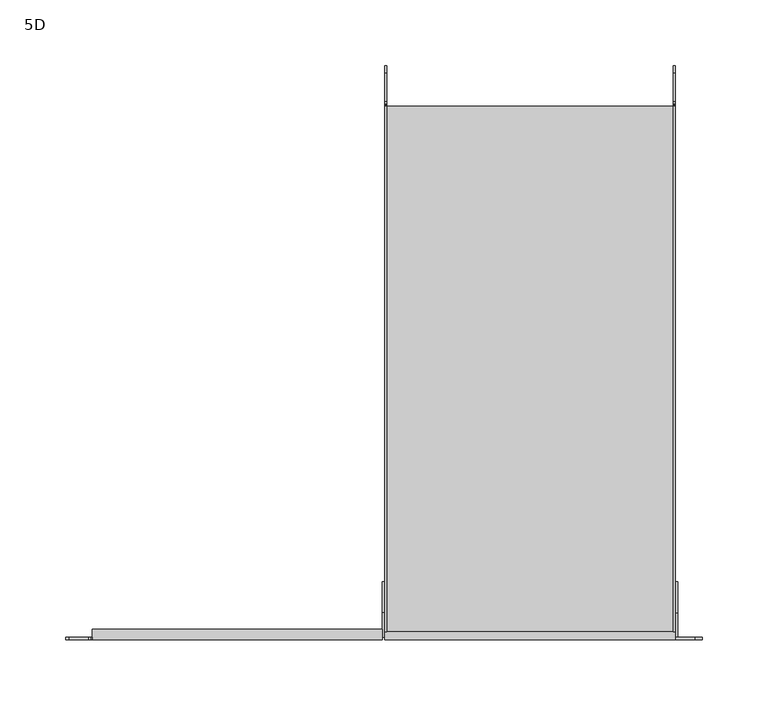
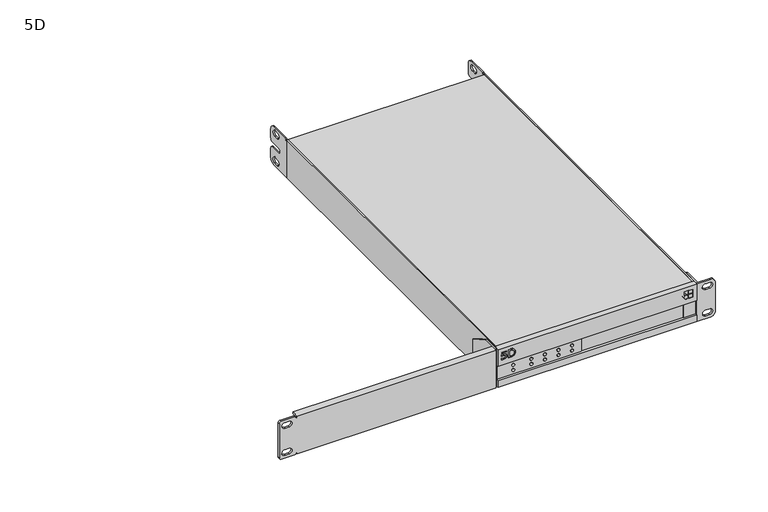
"""IFC4 building model written with IfcOpenShell, lengths in millimetres: proxy geometry, d&b 5D Amplifier : 5D."""

from ifc_helpers import new_model, si_unit, point, frame, frame_2d, origin, origin_with_axes, place, context, project, spatial, polyline, circle_curve, trimmed, segment, composite_curve, outline, extrude, source, transform, mapped, element, save
from ifc_brep_helpers import plane_surface, cylinder_surface, revolved_surface, advanced_brep


def proxy_5d_f9ce884a(model_context):
    return source(origin(), model_context, "Body", "SolidModel", [
        extrude(outline(composite_curve([segment(polyline([(185.5829535, 43.9406488), (207.5499232, 43.9406488)]), True, "CONTINUOUS"), segment(trimmed(circle_curve(frame_2d((207.5499232, 38.9406488)), 5.0), [point((207.5499232, 43.9406488))], [point((212.5499232, 38.9406488))], False, "CARTESIAN"), True, "CONTINUOUS"), segment(polyline([(212.5499232, 38.9406488), (212.5499232, 28.0)]), True, "CONTINUOUS"), segment(trimmed(circle_curve(frame_2d((209.5499232, 28.0)), 3.0), [point((212.5499232, 28.0))], [point((209.5499232, 25.0))], False, "CARTESIAN"), True, "CONTINUOUS"), segment(polyline([(209.5499232, 25.0), (197.5499232, 25.0)]), True, "CONTINUOUS"), segment(trimmed(circle_curve(frame_2d((197.5499232, 22.0)), 3.0), [point((197.5499232, 25.0))], [point((197.5499232, 19.0))], True, "CARTESIAN"), True, "CONTINUOUS"), segment(polyline([(197.5499232, 19.0), (209.5499232, 19.0)]), True, "CONTINUOUS"), segment(trimmed(circle_curve(frame_2d((209.5499232, 16.0)), 3.0), [point((209.5499232, 19.0))], [point((212.5499232, 16.0))], False, "CARTESIAN"), True, "CONTINUOUS"), segment(polyline([(212.5499232, 16.0), (212.5499232, 5.0)]), True, "CONTINUOUS"), segment(trimmed(circle_curve(frame_2d((207.5499232, 5.0)), 5.0), [point((212.5499232, 5.0))], [point((207.5499232, 0.0))], False, "CARTESIAN"), True, "CONTINUOUS"), segment(polyline([(207.5499232, 0.0), (182.0499232, 0.0), (182.0499232, 42.7406488), (183.1829535, 42.7406488)]), True, "CONTINUOUS"), segment(trimmed(circle_curve(frame_2d((183.1829535, 43.7406488)), 1.0), [point((183.1829535, 42.7406488))], [point((183.9829535, 43.1406488))], True, "CARTESIAN"), True, "CONTINUOUS"), segment(trimmed(circle_curve(frame_2d((185.5829535, 41.9406488)), 2.0), [point((183.9829535, 43.1406488))], [point((185.5829535, 43.9406488))], False, "CARTESIAN"), True, "CONTINUOUS")], self_intersect=False), holes=[composite_curve([segment(trimmed(circle_curve(frame_2d((204.7999232, 6.25)), 3.25), [point((204.7999232, 3.0))], [point((204.7999232, 9.5))], True, "CARTESIAN"), True, "CONTINUOUS"), segment(polyline([(204.7999232, 9.5), (200.2999232, 9.5)]), True, "CONTINUOUS"), segment(trimmed(circle_curve(frame_2d((200.2999232, 6.25)), 3.25), [point((200.2999232, 9.5))], [point((200.2999232, 3.0))], True, "CARTESIAN"), True, "CONTINUOUS"), segment(polyline([(200.2999232, 3.0), (204.7999232, 3.0)]), True, "CONTINUOUS")], self_intersect=False), composite_curve([segment(trimmed(circle_curve(frame_2d((200.2999232, 37.75)), 3.25), [point((200.2999232, 41.0))], [point((200.2999232, 34.5))], True, "CARTESIAN"), True, "CONTINUOUS"), segment(polyline([(200.2999232, 34.5), (204.7999232, 34.5)]), True, "CONTINUOUS"), segment(trimmed(circle_curve(frame_2d((204.7999232, 37.75)), 3.25), [point((204.7999232, 34.5))], [point((204.7999232, 41.0))], True, "CARTESIAN"), True, "CONTINUOUS"), segment(polyline([(204.7999232, 41.0), (200.2999232, 41.0)]), True, "CONTINUOUS")], self_intersect=False)]), frame((-2.883647, 0.0, 0.0), z_axis=(1.0, 0.0, 0.0), x_axis=(0.0, 1.0, 0.0)), (0.0, 0.0, 1.0), 1.5),
        extrude(outline(composite_curve([segment(polyline([(185.5829535, 43.9406488), (207.5499232, 43.9406488)]), True, "CONTINUOUS"), segment(trimmed(circle_curve(frame_2d((207.5499232, 38.9406488)), 5.0), [point((207.5499232, 43.9406488))], [point((212.5499232, 38.9406488))], False, "CARTESIAN"), True, "CONTINUOUS"), segment(polyline([(212.5499232, 38.9406488), (212.5499232, 28.0)]), True, "CONTINUOUS"), segment(trimmed(circle_curve(frame_2d((209.5499232, 28.0)), 3.0), [point((212.5499232, 28.0))], [point((209.5499232, 25.0))], False, "CARTESIAN"), True, "CONTINUOUS"), segment(polyline([(209.5499232, 25.0), (197.5499232, 25.0)]), True, "CONTINUOUS"), segment(trimmed(circle_curve(frame_2d((197.5499232, 22.0)), 3.0), [point((197.5499232, 25.0))], [point((197.5499232, 19.0))], True, "CARTESIAN"), True, "CONTINUOUS"), segment(polyline([(197.5499232, 19.0), (209.5499232, 19.0)]), True, "CONTINUOUS"), segment(trimmed(circle_curve(frame_2d((209.5499232, 16.0)), 3.0), [point((209.5499232, 19.0))], [point((212.5499232, 16.0))], False, "CARTESIAN"), True, "CONTINUOUS"), segment(polyline([(212.5499232, 16.0), (212.5499232, 5.0)]), True, "CONTINUOUS"), segment(trimmed(circle_curve(frame_2d((207.5499232, 5.0)), 5.0), [point((212.5499232, 5.0))], [point((207.5499232, 0.0))], False, "CARTESIAN"), True, "CONTINUOUS"), segment(polyline([(207.5499232, 0.0), (182.0499232, 0.0), (182.0499232, 42.7406488), (183.1829535, 42.7406488)]), True, "CONTINUOUS"), segment(trimmed(circle_curve(frame_2d((183.1829535, 43.7406488)), 1.0), [point((183.1829535, 42.7406488))], [point((183.9829535, 43.1406488))], True, "CARTESIAN"), True, "CONTINUOUS"), segment(trimmed(circle_curve(frame_2d((185.5829535, 41.9406488)), 2.0), [point((183.9829535, 43.1406488))], [point((185.5829535, 43.9406488))], False, "CARTESIAN"), True, "CONTINUOUS")], self_intersect=False), holes=[composite_curve([segment(trimmed(circle_curve(frame_2d((204.7999232, 6.25)), 3.25), [point((204.7999232, 3.0))], [point((204.7999232, 9.5))], True, "CARTESIAN"), True, "CONTINUOUS"), segment(polyline([(204.7999232, 9.5), (200.2999232, 9.5)]), True, "CONTINUOUS"), segment(trimmed(circle_curve(frame_2d((200.2999232, 6.25)), 3.25), [point((200.2999232, 9.5))], [point((200.2999232, 3.0))], True, "CARTESIAN"), True, "CONTINUOUS"), segment(polyline([(200.2999232, 3.0), (204.7999232, 3.0)]), True, "CONTINUOUS")], self_intersect=False), composite_curve([segment(trimmed(circle_curve(frame_2d((200.2999232, 37.75)), 3.25), [point((200.2999232, 41.0))], [point((200.2999232, 34.5))], True, "CARTESIAN"), True, "CONTINUOUS"), segment(polyline([(200.2999232, 34.5), (204.7999232, 34.5)]), True, "CONTINUOUS"), segment(trimmed(circle_curve(frame_2d((204.7999232, 37.75)), 3.25), [point((204.7999232, 34.5))], [point((204.7999232, 41.0))], True, "CARTESIAN"), True, "CONTINUOUS"), segment(polyline([(204.7999232, 41.0), (200.2999232, 41.0)]), True, "CONTINUOUS")], self_intersect=False)]), frame((-221.330704, 0.0, 0.0), z_axis=(1.0, 0.0, 0.0), x_axis=(0.0, 1.0, 0.0)), (0.0, 0.0, 1.0), 1.5),
        extrude(outline(polyline([(-14.8641212, -216.4500768), (-14.8641212, -218.9005113), (-127.4848246, -218.9005113), (-127.4848246, -216.4500768), (-14.8641212, -216.4500768)])), frame((0.0, 0.0, 7.4401156), z_axis=(0.0, 0.0, 1.0), x_axis=(1.0, 0.0, 0.0)), (0.0, 0.0, 1.0), 17.1349724),
        extrude(outline(polyline([(-219.830704, 182.0499232), (-219.830704, -216.4500768), (-221.330704, -216.4500768), (-221.330704, 182.0499232), (-219.830704, 182.0499232)])), origin_with_axes(), (0.0, 0.0, 1.0), 43.9406488),
        extrude(outline(polyline([(-1.383647, 182.0499232), (-1.383647, -216.4500768), (-2.883647, -216.4500768), (-2.883647, 182.0499232), (-1.383647, 182.0499232)])), origin_with_axes(), (0.0, 0.0, 1.0), 43.9406488),
        advanced_brep(
        [(-1.383647, -222.4500768, 7.4401156), (-1.383647, -222.4500768, 0.0), (-1.383647, -216.4500768, 0.0), (-1.383647, -216.4500768, 43.9406488), (-1.383647, -222.4500768, 43.9406488), (-1.383647, -222.4500768, 24.5750881), (-1.383647, -219.9500768, 24.5750881), (-1.383647, -219.9500768, 7.4401156), (-221.330704, -222.4500768, 43.9406488), (-221.330704, -216.4500768, 43.9406488), (-221.330704, -216.4500768, 24.5750881), (-221.330704, -222.4500768, 24.5750881), (-221.330704, -222.4500768, 7.4401156), (-221.330704, -216.4500768, 7.4401156), (-221.330704, -216.4500768, 0.0), (-221.330704, -222.4500768, 0.0), (-14.8641212, -216.4500768, 7.4401156), (-14.8641212, -216.4500768, 24.5750881), (-209.7824127, -222.4500768, 39.5054393), (-206.5190145, -222.4500768, 39.5054393), (-206.5190145, -222.4500768, 30.5405362), (-209.7824127, -222.4500768, 30.5405362), (-217.0026684, -222.4500768, 39.5054393), (-212.1114808, -222.4500768, 39.5054393), (-212.1114808, -222.4500768, 38.0155348), (-215.6272884, -222.4500768, 38.0155348), (-215.7635554, -222.4500768, 36.4579961), (-214.2558866, -222.4500768, 36.4579961), (-213.19435, -222.4500768, 30.9129936), (-217.7386054, -222.4500768, 31.0936409), (-217.5942324, -222.4500768, 32.7438318), (-213.7483664, -222.4500768, 32.3069326), (-214.2558866, -222.4500768, 34.9579961), (-217.4005181, -222.4500768, 34.9579961), (-15.0897549, -222.4500768, 39.3082376), (-10.8402378, -222.4500768, 39.3082376), (-10.8402378, -222.4500768, 35.0587206), (-15.0897549, -222.4500768, 35.0587206), (-10.233164, -222.4500768, 39.3082376), (-5.983647, -222.4500768, 39.3082376), (-5.983647, -222.4500768, 35.0587206), (-10.233164, -222.4500768, 35.0587206), (-10.233164, -222.4500768, 34.4516467), (-5.983647, -222.4500768, 34.4516467), (-5.983647, -222.4500768, 30.2021297), (-10.233164, -222.4500768, 30.2021297), (-12.9649964, -222.4500768, 34.4516467), (-12.9649964, -222.4500768, 30.2021297), (-208.2824127, -222.4500768, 32.0405362), (-206.5190145, -222.4500768, 32.0405362), (-206.5190145, -222.4500768, 38.0054393), (-208.2824127, -222.4500768, 38.0054393), (-14.8641212, -219.9500768, 24.5750881), (-14.8641212, -219.9500768, 7.4401156), (-206.5190145, -217.4500768, 39.5054393), (-209.7824127, -217.4500768, 39.5054393), (-209.7824127, -217.4500768, 30.5405362), (-206.5190145, -217.4500768, 30.5405362), (-206.5190145, -217.4500768, 32.0405362), (-208.2824127, -217.4500768, 32.0405362), (-208.2824127, -217.4500768, 38.0054393), (-206.5190145, -217.4500768, 38.0054393), (-212.1114808, -217.4500768, 39.5054393), (-217.0026684, -217.4500768, 39.5054393), (-217.4005181, -217.4500768, 34.9579961), (-214.2558866, -217.4500768, 34.9579961), (-213.7483664, -217.4500768, 32.3069326), (-217.5942324, -217.4500768, 32.7438318), (-217.7386054, -217.4500768, 31.0936409), (-213.19435, -217.4500768, 30.9129936), (-214.2558866, -217.4500768, 36.4579961), (-215.7635554, -217.4500768, 36.4579961), (-215.6272884, -217.4500768, 38.0155348), (-212.1114808, -217.4500768, 38.0155348), (-10.8402378, -217.4500768, 39.3082376), (-15.0897549, -217.4500768, 39.3082376), (-15.0897549, -217.4500768, 35.0587206), (-10.8402378, -217.4500768, 35.0587206), (-5.983647, -217.4500768, 39.3082376), (-10.233164, -217.4500768, 39.3082376), (-10.233164, -217.4500768, 35.0587206), (-5.983647, -217.4500768, 35.0587206), (-5.983647, -217.4500768, 34.4516467), (-10.233164, -217.4500768, 34.4516467), (-10.233164, -217.4500768, 30.2021297), (-5.983647, -217.4500768, 30.2021297), (-12.9649964, -217.4500768, 30.2021297), (-12.9649964, -217.4500768, 34.4516467)],
        [
            (0, 1),
            (1, 2),
            (2, 3),
            (3, 4),
            (4, 5),
            (5, 6),
            (6, 7),
            (7, 0),
            (8, 9),
            (9, 10),
            (10, 11),
            (11, 8),
            (12, 13),
            (13, 14),
            (14, 15),
            (15, 12),
            (0, 12),
            (15, 1),
            (14, 2),
            (13, 16),
            (16, 17),
            (17, 10),
            (9, 3),
            (8, 4),
            (11, 5),
            (18, 19),
            (19, 20, circle_curve(frame((-206.5190145, -222.4500768, 35.0229877), z_axis=(0.0, 1.0, 0.0), x_axis=(1.0, 0.0, 0.0)), 4.4824516)),
            (20, 21),
            (21, 18),
            (22, 23),
            (23, 24),
            (24, 25),
            (25, 26),
            (26, 27),
            (27, 28, circle_curve(frame((-214.2558866, -222.4500768, 33.5838844), z_axis=(0.0, 1.0, 0.0), x_axis=(1.0, 0.0, 0.0)), 2.8741117)),
            (28, 29, circle_curve(frame((-215.2631459, -222.4500768, 36.11821), z_axis=(0.0, 1.0, 0.0), x_axis=(1.0, 0.0, 0.0)), 5.6012672)),
            (29, 30),
            (30, 31, circle_curve(frame((-215.2631459, -222.4500768, 36.11821), z_axis=(0.0, -1.0, 0.0), x_axis=(1.0, 0.0, 0.0)), 4.1012672)),
            (31, 32, circle_curve(frame((-214.2558866, -222.4500768, 33.5838844), z_axis=(0.0, -1.0, 0.0), x_axis=(1.0, 0.0, 0.0)), 1.3741117)),
            (32, 33),
            (33, 22),
            (34, 35),
            (35, 36),
            (36, 37),
            (37, 34),
            (38, 39),
            (39, 40),
            (40, 41),
            (41, 38),
            (42, 43),
            (43, 44),
            (44, 45),
            (45, 42),
            (46, 47, circle_curve(frame((-12.9649964, -222.4500768, 32.3268882), z_axis=(0.0, 1.0, 0.0), x_axis=(0.0, 0.0, 1.0)), 2.1247585)),
            (47, 46, circle_curve(frame((-12.9649964, -222.4500768, 32.3268882), z_axis=(0.0, 1.0, 0.0), x_axis=(0.0, 0.0, 1.0)), 2.1247585)),
            (48, 49),
            (49, 50, circle_curve(frame((-206.5190145, -222.4500768, 35.0229877), z_axis=(0.0, -1.0, 0.0), x_axis=(1.0, 0.0, 0.0)), 2.9824516)),
            (50, 51),
            (51, 48),
            (17, 52),
            (52, 6),
            (7, 53),
            (53, 16),
            (53, 52),
            (54, 55),
            (55, 56),
            (56, 57),
            (57, 54, circle_curve(frame((-206.5190145, -217.4500768, 35.0229877), z_axis=(0.0, -1.0, 0.0), x_axis=(1.0, 0.0, 0.0)), 4.4824516)),
            (58, 59),
            (59, 60),
            (60, 61),
            (61, 58, circle_curve(frame((-206.5190145, -217.4500768, 35.0229877), z_axis=(0.0, 1.0, 0.0), x_axis=(1.0, 0.0, 0.0)), 2.9824516)),
            (62, 63),
            (63, 64),
            (64, 65),
            (65, 66, circle_curve(frame((-214.2558866, -217.4500768, 33.5838844), z_axis=(0.0, 1.0, 0.0), x_axis=(1.0, 0.0, 0.0)), 1.3741117)),
            (66, 67, circle_curve(frame((-215.2631459, -217.4500768, 36.11821), z_axis=(0.0, 1.0, 0.0), x_axis=(1.0, 0.0, 0.0)), 4.1012672)),
            (67, 68),
            (68, 69, circle_curve(frame((-215.2631459, -217.4500768, 36.11821), z_axis=(0.0, -1.0, 0.0), x_axis=(1.0, 0.0, 0.0)), 5.6012672)),
            (69, 70, circle_curve(frame((-214.2558866, -217.4500768, 33.5838844), z_axis=(0.0, -1.0, 0.0), x_axis=(1.0, 0.0, 0.0)), 2.8741117)),
            (70, 71),
            (71, 72),
            (72, 73),
            (73, 62),
            (74, 75),
            (75, 76),
            (76, 77),
            (77, 74),
            (78, 79),
            (79, 80),
            (80, 81),
            (81, 78),
            (82, 83),
            (83, 84),
            (84, 85),
            (85, 82),
            (86, 87, circle_curve(frame((-12.9649964, -217.4500768, 32.3268882), z_axis=(0.0, -1.0, 0.0), x_axis=(0.0, 0.0, 1.0)), 2.1247585)),
            (87, 86, circle_curve(frame((-12.9649964, -217.4500768, 32.3268882), z_axis=(0.0, -1.0, 0.0), x_axis=(0.0, 0.0, 1.0)), 2.1247585)),
            (54, 19),
            (18, 55),
            (21, 56),
            (20, 57),
            (58, 49),
            (48, 59),
            (51, 60),
            (50, 61),
            (62, 23),
            (22, 63),
            (33, 64),
            (32, 65),
            (31, 66),
            (30, 67),
            (29, 68),
            (28, 69),
            (27, 70),
            (26, 71),
            (25, 72),
            (24, 73),
            (74, 35),
            (34, 75),
            (37, 76),
            (36, 77),
            (78, 39),
            (38, 79),
            (41, 80),
            (40, 81),
            (82, 43),
            (42, 83),
            (45, 84),
            (44, 85),
            (86, 47),
            (46, 87),
        ],
        [
            plane_surface(frame((-1.383647, -222.4500768, -304.8), z_axis=(1.0, 0.0, 0.0), x_axis=(0.0, 0.0, -1.0))),
            plane_surface(frame((-221.330704, -222.4500768, -304.8), z_axis=(-1.0, 0.0, 0.0), x_axis=(0.0, 0.0, 1.0))),
            plane_surface(frame((-1.383647, -222.4500768, 7.4401156), z_axis=(0.0, -1.0, 0.0), x_axis=(-1.0, 0.0, 0.0))),
            plane_surface(frame((-1.383647, -222.4500768, 0.0), z_axis=(0.0, 0.0, -1.0), x_axis=(-1.0, 0.0, 0.0))),
            plane_surface(frame((-1.383647, -216.4500768, 24.5750881), z_axis=(0.0, 1.0, 0.0), x_axis=(-1.0, 0.0, 0.0))),
            plane_surface(frame((-1.383647, -216.4500768, 43.9406488), z_axis=(0.0, 0.0, 1.0), x_axis=(-1.0, 0.0, 0.0))),
            plane_surface(frame((-1.383647, -222.4500768, 43.9406488), z_axis=(0.0, -1.0, 0.0), x_axis=(-1.0, 0.0, 0.0))),
            plane_surface(frame((-1.383647, -222.4500768, 24.5750881), z_axis=(0.0, 0.0, -1.0), x_axis=(-1.0, 0.0, 0.0))),
            plane_surface(frame((-1.383647, -216.4500768, 7.4401156), z_axis=(0.0, 0.0, 1.0), x_axis=(-1.0, 0.0, 0.0))),
            plane_surface(frame((-14.8641212, -216.4500768, 87.1230012), z_axis=(-1.0, 0.0, 0.0), x_axis=(0.0, 0.0, -1.0))),
            plane_surface(frame((-1.383647, -219.9500768, 24.5750881), z_axis=(0.0, -1.0, 0.0), x_axis=(-1.0, 0.0, 0.0))),
            plane_surface(frame((169.7687193, -217.4500768, 39.3082376), z_axis=(0.0, -1.0, 0.0), x_axis=(1.0, 0.0, 0.0))),
            plane_surface(frame((-206.5190145, -222.4500768, 39.5054393), z_axis=(0.0, 0.0, -1.0), x_axis=(0.0, 1.0, 0.0))),
            plane_surface(frame((-209.7824127, -222.4500768, 39.5054393), z_axis=(1.0, 0.0, 0.0), x_axis=(0.0, 1.0, 0.0))),
            plane_surface(frame((-209.7824127, -222.4500768, 30.5405362), z_axis=(0.0, 0.0, 1.0), x_axis=(0.0, 1.0, 0.0))),
            revolved_surface(polyline([(-202.0365629, -222.4500768, 35.0229877), (-202.0365629, -217.4500768, 35.0229877)]), (-206.5190145, -222.4500768, 35.0229877), (0.0, -1.0, 0.0)),
            plane_surface(frame((-206.5190145, -222.4500768, 32.0405362), z_axis=(0.0, 0.0, -1.0), x_axis=(0.0, 1.0, 0.0))),
            plane_surface(frame((-208.2824127, -222.4500768, 32.0405362), z_axis=(-1.0, 0.0, 0.0), x_axis=(0.0, 1.0, 0.0))),
            plane_surface(frame((-208.2824127, -222.4500768, 38.0054393), z_axis=(0.0, 0.0, 1.0), x_axis=(0.0, 1.0, 0.0))),
            cylinder_surface(frame((-206.5190145, -222.4500768, 35.0229877), z_axis=(0.0, 1.0, 0.0), x_axis=(1.0, 0.0, 0.0)), 2.9824516),
            plane_surface(frame((-212.1114808, -222.4500768, 39.5054393), z_axis=(0.0, 0.0, -1.0), x_axis=(0.0, 1.0, 0.0))),
            plane_surface(frame((-217.0026684, -222.4500768, 39.5054393), z_axis=(0.9961946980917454, 0.0, -0.08715574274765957), x_axis=(0.0, 1.0, 0.0))),
            plane_surface(frame((-217.4005181, -222.4500768, 34.9579961), z_axis=(0.0, 0.0, 1.0), x_axis=(0.0, 1.0, 0.0))),
            cylinder_surface(frame((-214.2558866, -222.4500768, 33.5838844), z_axis=(0.0, 1.0, 0.0), x_axis=(1.0, 0.0, 0.0)), 1.3741117),
            cylinder_surface(frame((-215.2631459, -222.4500768, 36.11821), z_axis=(0.0, 1.0, 0.0), x_axis=(1.0, 0.0, 0.0)), 4.1012672),
            plane_surface(frame((-217.5942324, -222.4500768, 32.7438318), z_axis=(0.996194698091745, 0.0, -0.08715574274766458), x_axis=(0.0, 1.0, 0.0))),
            revolved_surface(polyline([(-209.66187870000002, -222.4500768, 36.11821), (-209.66187870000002, -217.4500768, 36.11821)]), (-215.2631459, -222.4500768, 36.11821), (0.0, -1.0, 0.0)),
            revolved_surface(polyline([(-211.3817749, -222.4500768, 33.5838844), (-211.3817749, -217.4500768, 33.5838844)]), (-214.2558866, -222.4500768, 33.5838844), (0.0, -1.0, 0.0)),
            plane_surface(frame((-214.2558866, -222.4500768, 36.4579961), z_axis=(0.0, 0.0, -1.0), x_axis=(0.0, 1.0, 0.0))),
            plane_surface(frame((-215.7635554, -222.4500768, 36.4579961), z_axis=(-0.9961946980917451, 0.0, 0.08715574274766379), x_axis=(0.0, 1.0, 0.0))),
            plane_surface(frame((-215.6272884, -222.4500768, 38.0155348), z_axis=(0.0, 0.0, 1.0), x_axis=(0.0, 1.0, 0.0))),
            plane_surface(frame((-212.1114808, -222.4500768, 38.0155348), z_axis=(-1.0, 0.0, 0.0), x_axis=(0.0, 1.0, 0.0))),
            plane_surface(frame((-10.8402378, -222.4500768, 39.3082376), z_axis=(0.0, 0.0, -1.0), x_axis=(0.0, 1.0, 0.0))),
            plane_surface(frame((-15.0897549, -222.4500768, 39.3082376), z_axis=(1.0, 0.0, 0.0), x_axis=(0.0, 1.0, 0.0))),
            plane_surface(frame((-15.0897549, -222.4500768, 35.0587206), z_axis=(0.0, 0.0, 1.0), x_axis=(0.0, 1.0, 0.0))),
            plane_surface(frame((-10.8402378, -222.4500768, 35.0587206), z_axis=(-1.0, 0.0, 0.0), x_axis=(0.0, 1.0, 0.0))),
            plane_surface(frame((-5.983647, -222.4500768, 39.3082376), z_axis=(0.0, 0.0, -1.0), x_axis=(0.0, 1.0, 0.0))),
            plane_surface(frame((-10.233164, -222.4500768, 39.3082376), z_axis=(1.0, 0.0, 0.0), x_axis=(0.0, 1.0, 0.0))),
            plane_surface(frame((-10.233164, -222.4500768, 35.0587206), z_axis=(0.0, 0.0, 1.0), x_axis=(0.0, 1.0, 0.0))),
            plane_surface(frame((-5.983647, -222.4500768, 35.0587206), z_axis=(-1.0, 0.0, 0.0), x_axis=(0.0, 1.0, 0.0))),
            plane_surface(frame((-5.983647, -222.4500768, 34.4516467), z_axis=(0.0, 0.0, -1.0), x_axis=(0.0, 1.0, 0.0))),
            plane_surface(frame((-10.233164, -222.4500768, 34.4516467), z_axis=(1.0, 0.0, 0.0), x_axis=(0.0, 1.0, 0.0))),
            plane_surface(frame((-10.233164, -222.4500768, 30.2021297), z_axis=(0.0, 0.0, 1.0), x_axis=(0.0, 1.0, 0.0))),
            plane_surface(frame((-5.983647, -222.4500768, 30.2021297), z_axis=(-1.0, 0.0, 0.0), x_axis=(0.0, 1.0, 0.0))),
            revolved_surface(polyline([(-12.9649964, -222.4500768, 34.4516467), (-12.9649964, -217.4500768, 34.4516467)]), (-12.9649964, -222.4500768, 32.3268882), (0.0, -1.0, 0.0)),
        ],
        [
            (0, [[1, 2, 3, 4, 5, 6, 7, 8]]),
            (1, [[9, 10, 11, 12]]),
            (1, [[13, 14, 15, 16]]),
            (2, [[-1, 17, -16, 18]]),
            (3, [[-2, -18, -15, 19]]),
            (4, [[-3, -19, -14, 20, 21, 22, -10, 23]]),
            (5, [[-4, -23, -9, 24]]),
            (6, [[-5, -24, -12, 25], [26, 27, 28, 29], [30, 31, 32, 33, 34, 35, 36, 37, 38, 39, 40, 41], [42, 43, 44, 45], [46, 47, 48, 49], [50, 51, 52, 53], [54, 55]]),
            (6, [[56, 57, 58, 59]]),
            (7, [[-11, -22, 60, 61, -6, -25]]),
            (8, [[-13, -17, -8, 62, 63, -20]]),
            (9, [[64, -60, -21, -63]]),
            (10, [[-7, -61, -64, -62]]),
            (11, [[65, 66, 67, 68], [69, 70, 71, 72]]),
            (11, [[73, 74, 75, 76, 77, 78, 79, 80, 81, 82, 83, 84]]),
            (11, [[85, 86, 87, 88]]),
            (11, [[89, 90, 91, 92]]),
            (11, [[93, 94, 95, 96]]),
            (11, [[97, 98]]),
            (12, [[-65, 99, -26, 100]]),
            (13, [[-66, -100, -29, 101]]),
            (14, [[-67, -101, -28, 102]]),
            (15, [[-68, -102, -27, -99]]),
            (16, [[-69, 103, -56, 104]]),
            (17, [[-70, -104, -59, 105]]),
            (18, [[-71, -105, -58, 106]]),
            (19, [[-72, -106, -57, -103]]),
            (20, [[-73, 107, -30, 108]]),
            (21, [[-74, -108, -41, 109]]),
            (22, [[-75, -109, -40, 110]]),
            (23, [[-76, -110, -39, 111]]),
            (24, [[-77, -111, -38, 112]]),
            (25, [[-78, -112, -37, 113]]),
            (26, [[-79, -113, -36, 114]]),
            (27, [[-80, -114, -35, 115]]),
            (28, [[-81, -115, -34, 116]]),
            (29, [[-82, -116, -33, 117]]),
            (30, [[-83, -117, -32, 118]]),
            (31, [[-84, -118, -31, -107]]),
            (32, [[-85, 119, -42, 120]]),
            (33, [[-86, -120, -45, 121]]),
            (34, [[-87, -121, -44, 122]]),
            (35, [[-88, -122, -43, -119]]),
            (36, [[-89, 123, -46, 124]]),
            (37, [[-90, -124, -49, 125]]),
            (38, [[-91, -125, -48, 126]]),
            (39, [[-92, -126, -47, -123]]),
            (40, [[-93, 127, -50, 128]]),
            (41, [[-94, -128, -53, 129]]),
            (42, [[-95, -129, -52, 130]]),
            (43, [[-96, -130, -51, -127]]),
            (44, [[-97, 131, -54, 132]]),
            (44, [[-98, -132, -55, -131]]),
        ],
    ),
        extrude(outline(polyline([(-2.883647, 182.0499232), (-2.883647, -216.4500768), (-219.830704, -216.4500768), (-219.830704, 182.0499232), (-2.883647, 182.0499232)])), origin_with_axes(), (0.0, 0.0, 1.0), 43.9406488),
        advanced_brep(
        [(-443.327761, -220.4500768, 2.0), (-444.327761, -220.4500768, 2.0), (-446.327761, -220.4500768, 0.0), (-461.077761, -220.4500768, 0.0), (-463.077761, -220.4500768, 2.0), (-463.077761, -220.4500768, 42.0), (-461.077761, -220.4500768, 44.0), (-446.327761, -220.4500768, 44.0), (-444.327761, -220.4500768, 42.0), (-443.327761, -220.4500768, 42.0), (-223.330704, -220.4500768, 41.9406488), (-223.330704, -220.4500768, 2.0), (-456.827761, -220.4500768, 41.1), (-456.827761, -220.4500768, 34.6), (-452.327761, -220.4500768, 34.6), (-452.327761, -220.4500768, 41.1), (-456.827761, -220.4500768, 9.4), (-456.827761, -220.4500768, 2.9), (-452.327761, -220.4500768, 2.9), (-452.327761, -220.4500768, 9.4), (-223.330704, -222.4500768, 43.9406488), (-443.327761, -222.4500768, 43.9406488), (-443.327761, -222.4500768, 42.0), (-444.327761, -222.4500768, 42.0), (-446.327761, -222.4500768, 44.0), (-461.077761, -222.4500768, 44.0), (-463.077761, -222.4500768, 42.0), (-463.077761, -222.4500768, 2.0), (-461.077761, -222.4500768, 0.0), (-446.327761, -222.4500768, 0.0), (-444.327761, -222.4500768, 2.0), (-443.327761, -222.4500768, 2.0), (-443.327761, -222.4500768, 0.0), (-223.330704, -222.4500768, 0.0), (-456.827761, -222.4500768, 41.1), (-452.327761, -222.4500768, 41.1), (-452.327761, -222.4500768, 34.6), (-456.827761, -222.4500768, 34.6), (-456.827761, -222.4500768, 9.4), (-452.327761, -222.4500768, 9.4), (-452.327761, -222.4500768, 2.9), (-456.827761, -222.4500768, 2.9), (-223.330704, -214.4500768, 0.0), (-223.330704, -214.4500768, 2.0), (-223.330704, -214.4500768, 41.9406488), (-223.330704, -214.4500768, 43.9406488), (-443.327761, -214.4500768, 0.0), (-443.327761, -214.4500768, 2.0), (-443.327761, -214.4500768, 43.9406488), (-443.327761, -214.4500768, 41.9406488)],
        [
            (0, 1, circle_curve(frame((-443.827761, -220.4500768, 2.0), z_axis=(0.0, -1.0, 0.0), x_axis=(1.0, 0.0, 0.0)), 0.5)),
            (1, 2, circle_curve(frame((-446.327761, -220.4500768, 2.0), z_axis=(0.0, 1.0, 0.0), x_axis=(-1.0, 0.0, 0.0)), 2.0)),
            (2, 3),
            (3, 4, circle_curve(frame((-461.077761, -220.4500768, 2.0), z_axis=(0.0, 1.0, 0.0), x_axis=(-1.0, 0.0, 0.0)), 2.0)),
            (4, 5),
            (5, 6, circle_curve(frame((-461.077761, -220.4500768, 42.0), z_axis=(0.0, 1.0, 0.0), x_axis=(-1.0, 0.0, 0.0)), 2.0)),
            (6, 7),
            (7, 8, circle_curve(frame((-446.327761, -220.4500768, 42.0), z_axis=(0.0, 1.0, 0.0), x_axis=(-1.0, 0.0, 0.0)), 2.0)),
            (8, 9, circle_curve(frame((-443.827761, -220.4500768, 42.0), z_axis=(0.0, -1.0, 0.0), x_axis=(1.0, 0.0, 0.0)), 0.5)),
            (9, 10),
            (10, 11),
            (11, 0),
            (12, 13, circle_curve(frame((-456.827761, -220.4500768, 37.85), z_axis=(0.0, -1.0, 0.0), x_axis=(1.0, 0.0, 0.0)), 3.25)),
            (13, 14),
            (14, 15, circle_curve(frame((-452.327761, -220.4500768, 37.85), z_axis=(0.0, -1.0, 0.0), x_axis=(1.0, 0.0, 0.0)), 3.25)),
            (15, 12),
            (16, 17, circle_curve(frame((-456.827761, -220.4500768, 6.15), z_axis=(0.0, -1.0, 0.0), x_axis=(1.0, 0.0, 0.0)), 3.25)),
            (17, 18),
            (18, 19, circle_curve(frame((-452.327761, -220.4500768, 6.15), z_axis=(0.0, -1.0, 0.0), x_axis=(1.0, 0.0, 0.0)), 3.25)),
            (19, 16),
            (20, 21),
            (21, 22),
            (22, 23, circle_curve(frame((-443.827761, -222.4500768, 42.0), z_axis=(0.0, 1.0, 0.0), x_axis=(1.0, 0.0, 0.0)), 0.5)),
            (23, 24, circle_curve(frame((-446.327761, -222.4500768, 42.0), z_axis=(0.0, -1.0, 0.0), x_axis=(-1.0, 0.0, 0.0)), 2.0)),
            (24, 25),
            (25, 26, circle_curve(frame((-461.077761, -222.4500768, 42.0), z_axis=(0.0, -1.0, 0.0), x_axis=(-1.0, 0.0, 0.0)), 2.0)),
            (26, 27),
            (27, 28, circle_curve(frame((-461.077761, -222.4500768, 2.0), z_axis=(0.0, -1.0, 0.0), x_axis=(-1.0, 0.0, 0.0)), 2.0)),
            (28, 29),
            (29, 30, circle_curve(frame((-446.327761, -222.4500768, 2.0), z_axis=(0.0, -1.0, 0.0), x_axis=(-1.0, 0.0, 0.0)), 2.0)),
            (30, 31, circle_curve(frame((-443.827761, -222.4500768, 2.0), z_axis=(0.0, 1.0, 0.0), x_axis=(1.0, 0.0, 0.0)), 0.5)),
            (31, 32),
            (32, 33),
            (33, 20),
            (34, 35),
            (35, 36, circle_curve(frame((-452.327761, -222.4500768, 37.85), z_axis=(0.0, 1.0, 0.0), x_axis=(1.0, 0.0, 0.0)), 3.25)),
            (36, 37),
            (37, 34, circle_curve(frame((-456.827761, -222.4500768, 37.85), z_axis=(0.0, 1.0, 0.0), x_axis=(1.0, 0.0, 0.0)), 3.25)),
            (38, 39),
            (39, 40, circle_curve(frame((-452.327761, -222.4500768, 6.15), z_axis=(0.0, 1.0, 0.0), x_axis=(1.0, 0.0, 0.0)), 3.25)),
            (40, 41),
            (41, 38, circle_curve(frame((-456.827761, -222.4500768, 6.15), z_axis=(0.0, 1.0, 0.0), x_axis=(1.0, 0.0, 0.0)), 3.25)),
            (33, 42),
            (42, 43),
            (43, 11),
            (10, 44),
            (44, 45),
            (45, 20),
            (32, 46),
            (46, 42),
            (31, 0),
            (0, 47),
            (47, 46),
            (30, 1),
            (29, 2),
            (28, 3),
            (27, 4),
            (26, 5),
            (25, 6),
            (24, 7),
            (23, 8),
            (22, 9),
            (21, 48),
            (48, 49),
            (49, 9),
            (45, 48),
            (12, 34),
            (37, 13),
            (36, 14),
            (35, 15),
            (16, 38),
            (41, 17),
            (40, 18),
            (39, 19),
            (49, 44),
            (43, 47),
        ],
        [
            plane_surface(frame((-443.327761, -220.4500768, 43.9406488), z_axis=(0.0, 1.0, 0.0), x_axis=(1.0, 0.0, 0.0))),
            plane_surface(frame((-443.327761, -222.4500768, 43.9406488), z_axis=(0.0, -1.0, 0.0), x_axis=(-1.0, 0.0, 0.0))),
            plane_surface(frame((-223.330704, -222.4500768, 0.0), z_axis=(1.0, 0.0, 0.0), x_axis=(0.0, 1.0, 0.0))),
            plane_surface(frame((-443.327761, -222.4500768, 0.0), z_axis=(0.0, 0.0, -1.0), x_axis=(0.0, 1.0, 0.0))),
            plane_surface(frame((-443.327761, -222.4500768, 2.0), z_axis=(-1.0, 0.0, 0.0), x_axis=(0.0, 1.0, 0.0))),
            revolved_surface(polyline([(-443.327761, -220.4500768, 2.0), (-443.327761, -222.4500768, 2.0)]), (-443.827761, -220.4500768, 2.0), (0.0, 1.0, 0.0)),
            cylinder_surface(frame((-446.327761, -220.4500768, 2.0), z_axis=(0.0, -1.0, 0.0), x_axis=(-1.0, 0.0, 0.0)), 2.0),
            plane_surface(frame((-461.077761, -222.4500768, 0.0), z_axis=(0.0, 0.0, -1.0), x_axis=(0.0, 1.0, 0.0))),
            cylinder_surface(frame((-461.077761, -220.4500768, 2.0), z_axis=(0.0, -1.0, 0.0), x_axis=(-1.0, 0.0, 0.0)), 2.0),
            plane_surface(frame((-463.077761, -222.4500768, 42.0), z_axis=(-1.0, 0.0, 0.0), x_axis=(0.0, 1.0, 0.0))),
            cylinder_surface(frame((-461.077761, -220.4500768, 42.0), z_axis=(0.0, -1.0, 0.0), x_axis=(-1.0, 0.0, 0.0)), 2.0),
            plane_surface(frame((-446.327761, -222.4500768, 44.0), z_axis=(0.0, 0.0, 1.0), x_axis=(0.0, 1.0, 0.0))),
            cylinder_surface(frame((-446.327761, -220.4500768, 42.0), z_axis=(0.0, -1.0, 0.0), x_axis=(-1.0, 0.0, 0.0)), 2.0),
            revolved_surface(polyline([(-443.327761, -220.4500768, 42.0), (-443.327761, -222.4500768, 42.0)]), (-443.827761, -220.4500768, 42.0), (0.0, 1.0, 0.0)),
            plane_surface(frame((-443.327761, -222.4500768, 43.9406488), z_axis=(-1.0, 0.0, 0.0), x_axis=(0.0, 1.0, 0.0))),
            plane_surface(frame((-223.330704, -222.4500768, 43.9406488), z_axis=(0.0, 0.0, 1.0), x_axis=(0.0, 1.0, 0.0))),
            revolved_surface(polyline([(-453.577761, -220.4500768, 37.85), (-453.577761, -222.4500768, 37.85)]), (-456.827761, -222.4500768, 37.85), (0.0, 1.0, 0.0)),
            plane_surface(frame((-452.327761, -222.4500768, 34.6), z_axis=(0.0, 0.0, 1.0), x_axis=(0.0, 1.0, 0.0))),
            revolved_surface(polyline([(-449.077761, -220.4500768, 37.85), (-449.077761, -222.4500768, 37.85)]), (-452.327761, -222.4500768, 37.85), (0.0, 1.0, 0.0)),
            plane_surface(frame((-456.827761, -222.4500768, 41.1), z_axis=(0.0, 0.0, -1.0), x_axis=(0.0, 1.0, 0.0))),
            revolved_surface(polyline([(-453.577761, -220.4500768, 6.15), (-453.577761, -222.4500768, 6.15)]), (-456.827761, -222.4500768, 6.15), (0.0, 1.0, 0.0)),
            plane_surface(frame((-452.327761, -222.4500768, 2.9), z_axis=(0.0, 0.0, 1.0), x_axis=(0.0, 1.0, 0.0))),
            revolved_surface(polyline([(-449.077761, -220.4500768, 6.15), (-449.077761, -222.4500768, 6.15)]), (-452.327761, -222.4500768, 6.15), (0.0, 1.0, 0.0)),
            plane_surface(frame((-456.827761, -222.4500768, 9.4), z_axis=(0.0, 0.0, -1.0), x_axis=(0.0, 1.0, 0.0))),
            plane_surface(frame((-223.330704, -222.4500768, 41.9406488), z_axis=(0.0, 0.0, -1.0), x_axis=(0.0, -1.0, 0.0))),
            plane_surface(frame((-223.330704, -214.4500768, 43.9406488), z_axis=(0.0, 1.0, 0.0), x_axis=(0.0, 0.0, -1.0))),
            plane_surface(frame((-223.330704, -222.4500768, 2.0), z_axis=(0.0, 0.0, 1.0), x_axis=(0.0, 1.0, 0.0))),
            plane_surface(frame((-223.330704, -214.4500768, 2.0), z_axis=(0.0, 1.0, 0.0), x_axis=(0.0, 0.0, -1.0))),
        ],
        [
            (0, [[1, 2, 3, 4, 5, 6, 7, 8, 9, 10, 11, 12], [13, 14, 15, 16], [17, 18, 19, 20]]),
            (1, [[21, 22, 23, 24, 25, 26, 27, 28, 29, 30, 31, 32, 33, 34], [35, 36, 37, 38], [39, 40, 41, 42]]),
            (2, [[-34, 43, 44, 45, -11, 46, 47, 48]]),
            (3, [[-43, -33, 49, 50]]),
            (4, [[-49, -32, 51, 52, 53]]),
            (5, [[-1, -51, -31, 54]]),
            (6, [[-2, -54, -30, 55]]),
            (7, [[-3, -55, -29, 56]]),
            (8, [[-4, -56, -28, 57]]),
            (9, [[-5, -57, -27, 58]]),
            (10, [[-6, -58, -26, 59]]),
            (11, [[-7, -59, -25, 60]]),
            (12, [[-8, -60, -24, 61]]),
            (13, [[-9, -61, -23, 62]]),
            (14, [[-22, 63, 64, 65, -62]]),
            (15, [[-21, -48, 66, -63]]),
            (16, [[-13, 67, -38, 68]]),
            (17, [[-14, -68, -37, 69]]),
            (18, [[-15, -69, -36, 70]]),
            (19, [[-16, -70, -35, -67]]),
            (20, [[-17, 71, -42, 72]]),
            (21, [[-18, -72, -41, 73]]),
            (22, [[-19, -73, -40, 74]]),
            (23, [[-20, -74, -39, -71]]),
            (24, [[-65, 75, -46, -10]]),
            (25, [[-66, -47, -75, -64]]),
            (26, [[-45, 76, -52, -12]]),
            (27, [[-76, -44, -50, -53]]),
        ],
    ),
        extrude(outline(composite_curve([segment(polyline([(5.0, 19.0253736), (38.9406488, 19.0253736)]), True, "CONTINUOUS"), segment(trimmed(circle_curve(frame_2d((38.9406488, 14.0253736)), 5.0), [point((38.9406488, 19.0253736))], [point((43.9406488, 14.0253736))], False, "CARTESIAN"), True, "CONTINUOUS"), segment(polyline([(43.9406488, 14.0253736), (43.9406488, -1.383647), (0.0, -1.383647), (0.0, 14.0253736)]), True, "CONTINUOUS"), segment(trimmed(circle_curve(frame_2d((5.0, 14.0253736)), 5.0), [point((0.0, 14.0253736))], [point((5.0, 19.0253736))], False, "CARTESIAN"), True, "CONTINUOUS")], self_intersect=False), holes=[composite_curve([segment(polyline([(9.8271522, 8.2512066), (9.8271522, 12.7511409)]), True, "CONTINUOUS"), segment(trimmed(circle_curve(frame_2d((6.5771997, 12.7511409)), 3.2499525), [point((9.8271522, 12.7511409))], [point((3.3272472, 12.7511409))], True, "CARTESIAN"), True, "CONTINUOUS"), segment(polyline([(3.3272472, 12.7511409), (3.3272472, 8.2512066)]), True, "CONTINUOUS"), segment(trimmed(circle_curve(frame_2d((6.5771997, 8.2512066)), 3.2499525), [point((3.3272472, 8.2512066))], [point((9.8271522, 8.2512066))], True, "CARTESIAN"), True, "CONTINUOUS")], self_intersect=False), composite_curve([segment(trimmed(circle_curve(frame_2d((37.3980037, 8.2512066)), 3.2499525), [point((34.1480512, 8.2512066))], [point((40.6479563, 8.2512066))], True, "CARTESIAN"), True, "CONTINUOUS"), segment(polyline([(40.6479563, 8.2512066), (40.6479563, 12.7511409)]), True, "CONTINUOUS"), segment(trimmed(circle_curve(frame_2d((37.3980037, 12.7511409)), 3.2499525), [point((40.6479563, 12.7511409))], [point((34.1480512, 12.7511409))], True, "CARTESIAN"), True, "CONTINUOUS"), segment(polyline([(34.1480512, 12.7511409), (34.1480512, 8.2512066)]), True, "CONTINUOUS")], self_intersect=False)]), frame((0.0, -222.4500768, 0.0), z_axis=(0.0, 1.0, 0.0), x_axis=(0.0, 0.0, 1.0)), (0.0, 0.0, 1.0), 2.0),
        extrude(outline(polyline([(-127.4848246, -219.9500768), (-221.330704, -219.9500768), (-221.330704, -216.4500768), (-127.4848246, -216.4500768), (-127.4848246, -219.9500768)])), frame((0.0, 0.0, 7.4401156), z_axis=(0.0, 0.0, 1.0), x_axis=(1.0, 0.0, 0.0)), (0.0, 0.0, 1.0), 17.1349724),
        extrude(outline(polyline([(-10.8402378, -222.4500768), (-15.0897549, -222.4500768), (-15.0897549, -217.4500768), (-10.8402378, -217.4500768), (-10.8402378, -222.4500768)])), frame((0.0, 0.0, 35.0587206), z_axis=(0.0, 0.0, 1.0), x_axis=(1.0, 0.0, 0.0)), (0.0, 0.0, 1.0), 4.249517),
        extrude(outline(polyline([(-5.983647, -222.4500768), (-10.233164, -222.4500768), (-10.233164, -217.4500768), (-5.983647, -217.4500768), (-5.983647, -222.4500768)])), frame((0.0, 0.0, 35.0587206), z_axis=(0.0, 0.0, 1.0), x_axis=(1.0, 0.0, 0.0)), (0.0, 0.0, 1.0), 4.249517),
        extrude(outline(polyline([(-5.983647, -222.4500768), (-10.233164, -222.4500768), (-10.233164, -217.4500768), (-5.983647, -217.4500768), (-5.983647, -222.4500768)])), frame((0.0, 0.0, 30.2021297), z_axis=(0.0, 0.0, 1.0), x_axis=(1.0, 0.0, 0.0)), (0.0, 0.0, 1.0), 4.249517),
        extrude(outline(composite_curve([segment(trimmed(circle_curve(frame_2d((32.3268882, -12.9649964)), 2.1247585), [point((30.2021297, -12.9649964))], [point((34.4516467, -12.9649964))], False, "CARTESIAN"), True, "CONTINUOUS"), segment(trimmed(circle_curve(frame_2d((32.3268882, -12.9649964)), 2.1247585), [point((34.4516467, -12.9649964))], [point((30.2021297, -12.9649964))], False, "CARTESIAN"), True, "CONTINUOUS")], self_intersect=False)), frame((0.0, -222.4500768, 0.0), z_axis=(0.0, 1.0, 0.0), x_axis=(0.0, 0.0, 1.0)), (0.0, 0.0, 1.0), 5.0),
        extrude(outline(composite_curve([segment(polyline([(39.5054393, -206.5190145), (39.5054393, -209.7824127), (30.5405362, -209.7824127), (30.5405362, -206.5190145)]), True, "CONTINUOUS"), segment(trimmed(circle_curve(frame_2d((35.0229877, -206.5190145)), 4.4824516), [point((30.5405362, -206.5190145))], [point((39.5054393, -206.5190145))], False, "CARTESIAN"), True, "CONTINUOUS")], self_intersect=False), holes=[composite_curve([segment(polyline([(32.0405362, -206.5190145), (32.0405362, -208.2824127), (38.0054393, -208.2824127), (38.0054393, -206.5190145)]), True, "CONTINUOUS"), segment(trimmed(circle_curve(frame_2d((35.0229877, -206.5190145)), 2.9824516), [point((38.0054393, -206.5190145))], [point((32.0405362, -206.5190145))], True, "CARTESIAN"), True, "CONTINUOUS")], self_intersect=False)]), frame((0.0, -222.4500768, 0.0), z_axis=(0.0, 1.0, 0.0), x_axis=(0.0, 0.0, 1.0)), (0.0, 0.0, 1.0), 5.0),
        extrude(outline(composite_curve([segment(polyline([(39.5054393, -212.1114808), (39.5054393, -217.0026684), (34.9579961, -217.4005181), (34.9579961, -214.2558866)]), True, "CONTINUOUS"), segment(trimmed(circle_curve(frame_2d((33.5838844, -214.2558866)), 1.3741117), [point((34.9579961, -214.2558866))], [point((32.3069326, -213.7483664))], True, "CARTESIAN"), True, "CONTINUOUS"), segment(trimmed(circle_curve(frame_2d((36.11821, -215.2631459)), 4.1012672), [point((32.3069326, -213.7483664))], [point((32.7438318, -217.5942324))], True, "CARTESIAN"), True, "CONTINUOUS"), segment(polyline([(32.7438318, -217.5942324), (31.0936409, -217.7386054)]), True, "CONTINUOUS"), segment(trimmed(circle_curve(frame_2d((36.11821, -215.2631459)), 5.6012672), [point((31.0936409, -217.7386054))], [point((30.9129936, -213.19435))], False, "CARTESIAN"), True, "CONTINUOUS"), segment(trimmed(circle_curve(frame_2d((33.5838844, -214.2558866)), 2.8741117), [point((30.9129936, -213.19435))], [point((36.4579961, -214.2558866))], False, "CARTESIAN"), True, "CONTINUOUS"), segment(polyline([(36.4579961, -214.2558866), (36.4579961, -215.7635554), (38.0155348, -215.6272884), (38.0155348, -212.1114808), (39.5054393, -212.1114808)]), True, "CONTINUOUS")], self_intersect=False)), frame((0.0, -222.4500768, 0.0), z_axis=(0.0, 1.0, 0.0), x_axis=(0.0, 0.0, 1.0)), (0.0, 0.0, 1.0), 5.0),
        extrude(outline(polyline([(-201.8467618, 43.9406488), (-178.4500768, 30.5), (-178.4500768, 13.5), (-201.9500768, 0.0), (-220.4500768, 0.0), (-220.4500768, 43.9406488), (-201.8467618, 43.9406488)])), frame((-1.383647, 0.0, 0.0), z_axis=(1.0, 0.0, 0.0), x_axis=(0.0, 1.0, 0.0)), (0.0, 0.0, 1.0), 2.0),
        extrude(outline(polyline([(-201.8467618, 43.9406488), (-178.4500768, 30.5), (-178.4500768, 13.5), (-201.9500768, 0.0), (-220.4500768, 0.0), (-220.4500768, 43.9406488), (-201.8467618, 43.9406488)])), frame((-223.330704, 0.0, 0.0), z_axis=(1.0, 0.0, 0.0), x_axis=(0.0, 1.0, 0.0)), (0.0, 0.0, 1.0), 2.0),
        extrude(outline(composite_curve([segment(trimmed(circle_curve(frame_2d((12.9920152, -138.4616444)), 1.5529175), [point((12.9920152, -140.0145619))], [point((12.9920152, -136.9087269))], False, "CARTESIAN"), True, "CONTINUOUS"), segment(trimmed(circle_curve(frame_2d((12.9920152, -138.4616444)), 1.5529175), [point((12.9920152, -136.9087269))], [point((12.9920152, -140.0145619))], False, "CARTESIAN"), True, "CONTINUOUS")], self_intersect=False)), frame((0.0, -220.9500768, 0.0), z_axis=(0.0, 1.0, 0.0), x_axis=(0.0, 0.0, 1.0)), (0.0, 0.0, 1.0), 1.0),
        extrude(outline(composite_curve([segment(trimmed(circle_curve(frame_2d((19.0031846, -138.4616444)), 1.5529175), [point((19.0031846, -140.0145619))], [point((19.0031846, -136.9087269))], False, "CARTESIAN"), True, "CONTINUOUS"), segment(trimmed(circle_curve(frame_2d((19.0031846, -138.4616444)), 1.5529175), [point((19.0031846, -136.9087269))], [point((19.0031846, -140.0145619))], False, "CARTESIAN"), True, "CONTINUOUS")], self_intersect=False)), frame((0.0, -220.9500768, 0.0), z_axis=(0.0, 1.0, 0.0), x_axis=(0.0, 0.0, 1.0)), (0.0, 0.0, 1.0), 1.0),
        extrude(outline(composite_curve([segment(trimmed(circle_curve(frame_2d((12.9920152, -153.4525064)), 1.5529175), [point((12.9920152, -155.0054239))], [point((12.9920152, -151.899589))], False, "CARTESIAN"), True, "CONTINUOUS"), segment(trimmed(circle_curve(frame_2d((12.9920152, -153.4525064)), 1.5529175), [point((12.9920152, -151.899589))], [point((12.9920152, -155.0054239))], False, "CARTESIAN"), True, "CONTINUOUS")], self_intersect=False)), frame((0.0, -220.9500768, 0.0), z_axis=(0.0, 1.0, 0.0), x_axis=(0.0, 0.0, 1.0)), (0.0, 0.0, 1.0), 1.0),
        extrude(outline(composite_curve([segment(trimmed(circle_curve(frame_2d((19.0031846, -153.4525064)), 1.5529175), [point((19.0031846, -155.0054239))], [point((19.0031846, -151.899589))], False, "CARTESIAN"), True, "CONTINUOUS"), segment(trimmed(circle_curve(frame_2d((19.0031846, -153.4525064)), 1.5529175), [point((19.0031846, -151.899589))], [point((19.0031846, -155.0054239))], False, "CARTESIAN"), True, "CONTINUOUS")], self_intersect=False)), frame((0.0, -220.9500768, 0.0), z_axis=(0.0, 1.0, 0.0), x_axis=(0.0, 0.0, 1.0)), (0.0, 0.0, 1.0), 1.0),
        extrude(outline(composite_curve([segment(trimmed(circle_curve(frame_2d((12.9920152, -168.4612061)), 1.5529175), [point((12.9920152, -170.0141236))], [point((12.9920152, -166.9082886))], False, "CARTESIAN"), True, "CONTINUOUS"), segment(trimmed(circle_curve(frame_2d((12.9920152, -168.4612061)), 1.5529175), [point((12.9920152, -166.9082886))], [point((12.9920152, -170.0141236))], False, "CARTESIAN"), True, "CONTINUOUS")], self_intersect=False)), frame((0.0, -220.9500768, 0.0), z_axis=(0.0, 1.0, 0.0), x_axis=(0.0, 0.0, 1.0)), (0.0, 0.0, 1.0), 1.0),
        extrude(outline(composite_curve([segment(trimmed(circle_curve(frame_2d((19.0031846, -168.4612061)), 1.5529175), [point((19.0031846, -170.0141236))], [point((19.0031846, -166.9082886))], False, "CARTESIAN"), True, "CONTINUOUS"), segment(trimmed(circle_curve(frame_2d((19.0031846, -168.4612061)), 1.5529175), [point((19.0031846, -166.9082886))], [point((19.0031846, -170.0141236))], False, "CARTESIAN"), True, "CONTINUOUS")], self_intersect=False)), frame((0.0, -220.9500768, 0.0), z_axis=(0.0, 1.0, 0.0), x_axis=(0.0, 0.0, 1.0)), (0.0, 0.0, 1.0), 1.0),
        extrude(outline(composite_curve([segment(trimmed(circle_curve(frame_2d((12.9920152, -183.460987)), 1.5529175), [point((12.9920152, -185.0139045))], [point((12.9920152, -181.9080695))], False, "CARTESIAN"), True, "CONTINUOUS"), segment(trimmed(circle_curve(frame_2d((12.9920152, -183.460987)), 1.5529175), [point((12.9920152, -181.9080695))], [point((12.9920152, -185.0139045))], False, "CARTESIAN"), True, "CONTINUOUS")], self_intersect=False)), frame((0.0, -220.9500768, 0.0), z_axis=(0.0, 1.0, 0.0), x_axis=(0.0, 0.0, 1.0)), (0.0, 0.0, 1.0), 1.0),
        extrude(outline(composite_curve([segment(trimmed(circle_curve(frame_2d((19.0031846, -183.460987)), 1.5529175), [point((19.0031846, -185.0139045))], [point((19.0031846, -181.9080695))], False, "CARTESIAN"), True, "CONTINUOUS"), segment(trimmed(circle_curve(frame_2d((19.0031846, -183.460987)), 1.5529175), [point((19.0031846, -181.9080695))], [point((19.0031846, -185.0139045))], False, "CARTESIAN"), True, "CONTINUOUS")], self_intersect=False)), frame((0.0, -220.9500768, 0.0), z_axis=(0.0, 1.0, 0.0), x_axis=(0.0, 0.0, 1.0)), (0.0, 0.0, 1.0), 1.0),
        extrude(outline(composite_curve([segment(trimmed(circle_curve(frame_2d((19.0031846, -203.4606948)), 1.5529175), [point((19.0031846, -205.0136123))], [point((19.0031846, -201.9077773))], False, "CARTESIAN"), True, "CONTINUOUS"), segment(trimmed(circle_curve(frame_2d((19.0031846, -203.4606948)), 1.5529175), [point((19.0031846, -201.9077773))], [point((19.0031846, -205.0136123))], False, "CARTESIAN"), True, "CONTINUOUS")], self_intersect=False)), frame((0.0, -220.9500768, 0.0), z_axis=(0.0, 1.0, 0.0), x_axis=(0.0, 0.0, 1.0)), (0.0, 0.0, 1.0), 1.0),
        extrude(outline(composite_curve([segment(trimmed(circle_curve(frame_2d((12.9920152, -203.4606948)), 1.5529175), [point((12.9920152, -205.0136123))], [point((12.9920152, -201.9077773))], False, "CARTESIAN"), True, "CONTINUOUS"), segment(trimmed(circle_curve(frame_2d((12.9920152, -203.4606948)), 1.5529175), [point((12.9920152, -201.9077773))], [point((12.9920152, -205.0136123))], False, "CARTESIAN"), True, "CONTINUOUS")], self_intersect=False)), frame((0.0, -220.9500768, 0.0), z_axis=(0.0, 1.0, 0.0), x_axis=(0.0, 0.0, 1.0)), (0.0, 0.0, 1.0), 1.0),
    ])


if __name__ == "__main__":
    model = new_model("IFC4")
    model_context = context("Model", 3, world=origin())
    ifc_project = project(units=[si_unit("LENGTHUNIT", "METRE", prefix="MILLI")], contexts=[model_context])
    site = spatial("IfcSite", under=ifc_project)
    building = spatial("IfcBuilding", under=site)
    placement = place(None, origin())
    proxy_5d_shape = proxy_5d_f9ce884a(model_context)
    element("IfcBuildingElementProxy", 1, Name="d&b 5D Amplifier : 5D", ObjectType="d&b 5D Amplifier : 5D", at=placement, inside=building, context=model_context, shape_type="MappedRepresentation", body=[
        mapped(proxy_5d_shape, transform((0.0, 0.0, 0.0), x_axis=(1.0, 0.0, 0.0), y_axis=(0.0, 1.0, 0.0), z_axis=(0.0, 0.0, 1.0))),
    ])
    save(model, "model.ifc")
